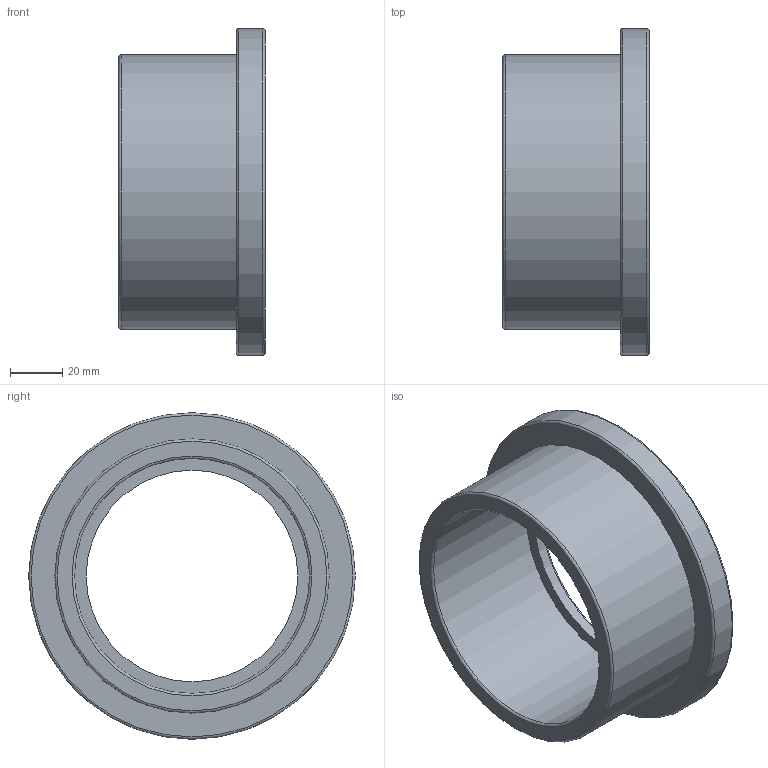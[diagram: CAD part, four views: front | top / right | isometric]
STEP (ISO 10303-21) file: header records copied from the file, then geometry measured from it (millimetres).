
FILE_DESCRIPTION(/* description */ ('PLASSON FLANGE FLAT AD.-CEM 90'),/* implementation_level */ '2;1');
FILE_NAME(/* name */ 'C:\Dropbox\KIMPROJECTS-Inventor\99-16-3568-Processing\PVC Catalog 2017\26_09_18\055100\055100090.ipt.stp',/* time_stamp */ '2018-09-27T11:50:52+03:00',/* author */ ('KIM'),/* organization */ (''),/* preprocessor_version */ 'ST-DEVELOPER v15.6',/* originating_system */ 'Autodesk Inventor 2015',/* authorisation */ '');
FILE_SCHEMA (('AUTOMOTIVE_DESIGN { 1 0 10303 214 3 1 1 }'));
Length unit declared in the file: millimetre
Products named in the file (1): 055100090
Bounding box: 56 x 125 x 125 mm (x, y, z)
Volume: 174146 mm3; surface area: 48455 mm2
Topology: 1 solids, 1 shells, 13 faces, 22 edges, 13 vertices
Faces by surface type: torus 5, cylinder 4, plane 4
Full cylindrical faces by diameter (mm): 81 x1, 90 x1, 105 x1, 125 x1
Entity records: 292 total; most frequent: DIRECTION 54, CARTESIAN_POINT 40, AXIS2_PLACEMENT_3D 27, EDGE_LOOP 26, ORIENTED_EDGE 26, FACE_BOUND 13, FACE_OUTER_BOUND 13, CIRCLE 13
